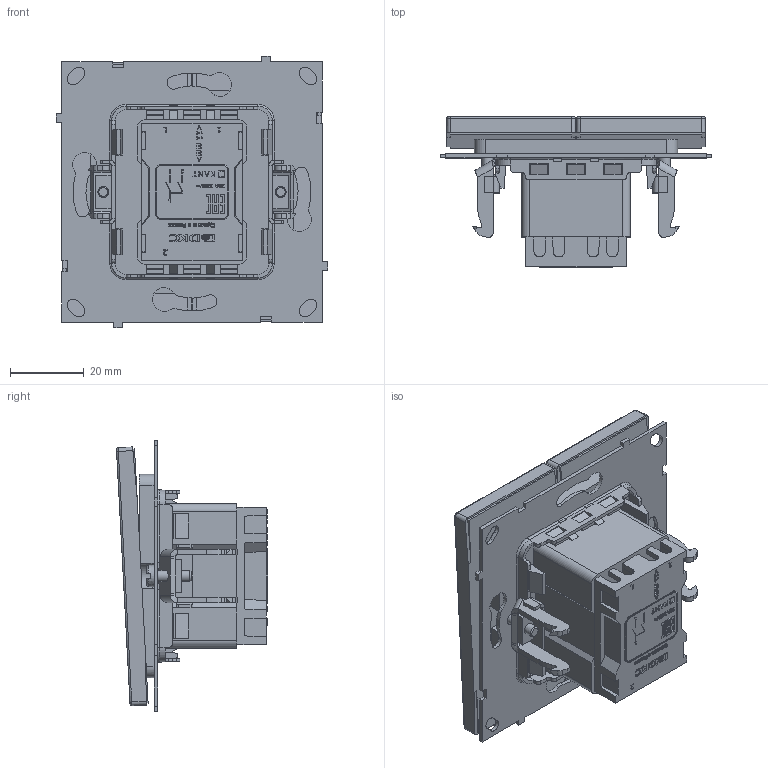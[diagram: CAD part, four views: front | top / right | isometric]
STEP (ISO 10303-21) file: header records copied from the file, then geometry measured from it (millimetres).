
FILE_DESCRIPTION (( 'STEP AP203' ), '1' );
FILE_NAME ('7000154.STEP', '2025-12-22T13:56:42', ( '' ), ( '' ), 'SwSTEP 2.0', 'SolidWorks 2022', '' );
FILE_SCHEMA (( 'CONFIG_CONTROL_DESIGN' ));
Length unit declared in the file: millimetre
Products named in the file (1): 7000154
Bounding box: 73.5 x 40.88 x 73.5 mm (x, y, z)
Volume: 69585.7 mm3; surface area: 29050.1 mm2
Topology: 3 solids, 3 shells, 1512 faces, 4213 edges, 2755 vertices
Faces by surface type: plane 984, bspline 280, cylinder 214, torus 22, cone 12
Full cylindrical faces by diameter (mm): 3 x4, 3.3 x2
Entity records: 57625 total; most frequent: CARTESIAN_POINT 20463, ORIENTED_EDGE 8388, DIRECTION 6490, EDGE_CURVE 4194, LINE 3088, VECTOR 3088, VERTEX_POINT 2748, AXIS2_PLACEMENT_3D 1701
